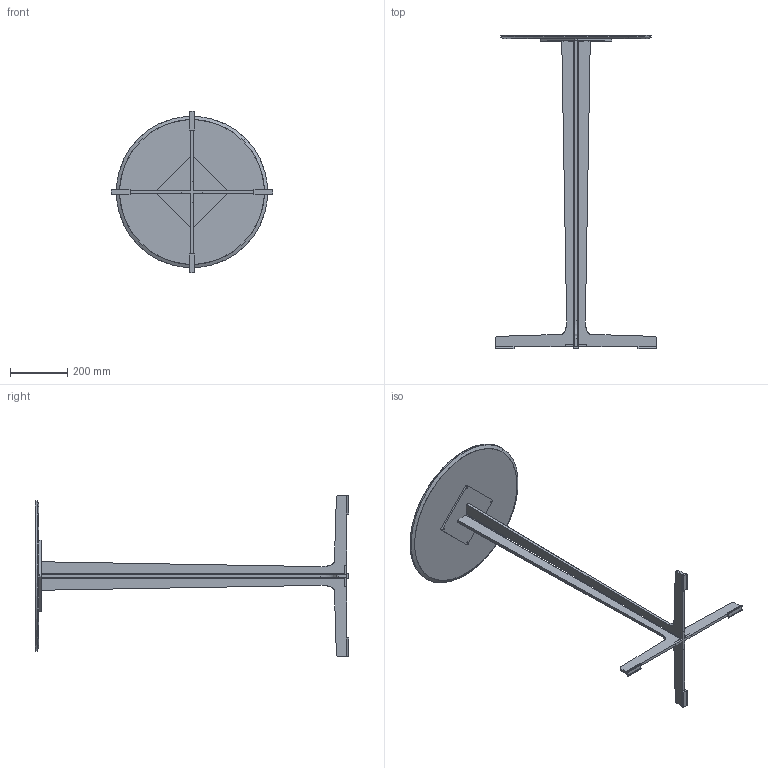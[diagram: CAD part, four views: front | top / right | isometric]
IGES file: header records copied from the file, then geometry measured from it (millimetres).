
Start section: SolidWorks IGES file using analytic representation for surfaces
Global section: file name: W:\design\CKR\spilt\IGS\DIAM53A.IGS; native system: SolidWorks 2010; preprocessor: SolidWorks 2010; author: PC20; date: 150212.184120; units: millimetre
Bounding box: 564 x 1097 x 564 mm (x, y, z)
Surface area: 1014268.9 mm2 (no closed solid volume)
Topology: 0 solids, 0 shells, 229 faces, 4352 edges, 5546 vertices
Faces by surface type: bspline 158, revolution 71
